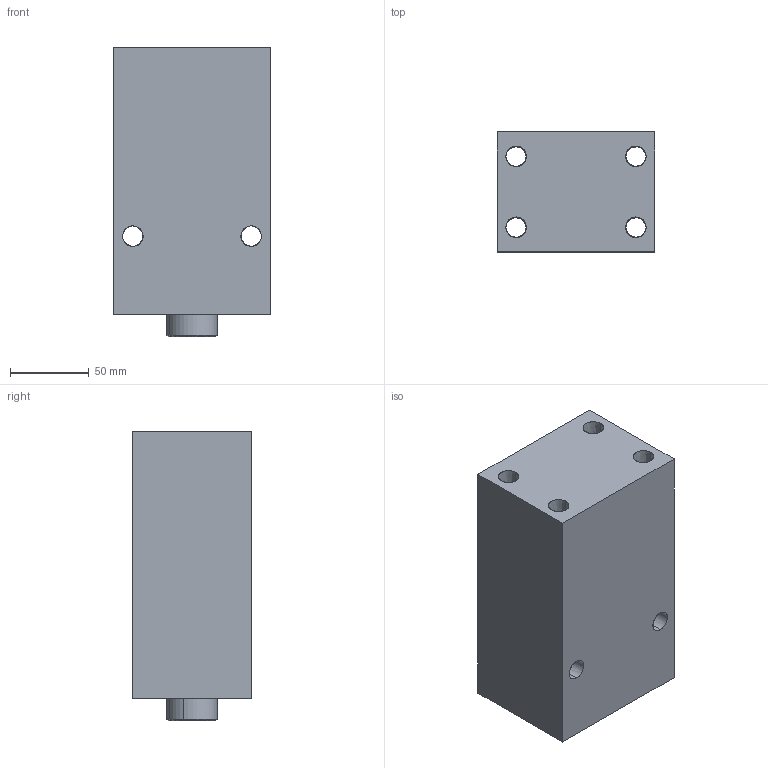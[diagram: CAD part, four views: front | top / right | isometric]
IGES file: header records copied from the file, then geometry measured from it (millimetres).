
Start section: SolidWorks IGES file using analytic representation for surfaces
Global section: file name: D:\karuppas\Clasp\3D model\Block cylinder B01C-Female thread\B01C-510F\Block cylinder B01C-510F.IGS; native system: SolidWorks 2017; preprocessor: SolidWorks 2017; author: pc; date: 220710.000303; units: millimetre
Bounding box: 100 x 76 x 184 mm (x, y, z)
Surface area: 131787.9 mm2 (no closed solid volume)
Topology: 0 solids, 0 shells, 213 faces, 4073 edges, 4067 vertices
Faces by surface type: bspline 173, revolution 40
